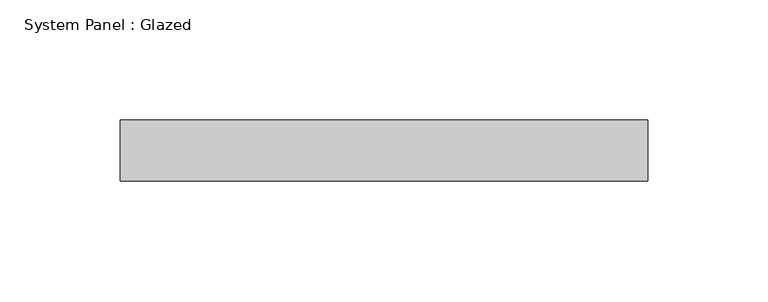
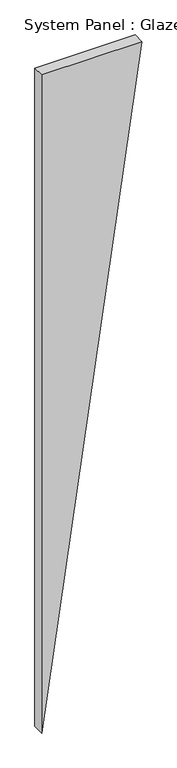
"""IFC4 building model written with IfcOpenShell, lengths in millimetres: plate geometry, System Panel : Glazed."""

from ifc_helpers import new_model, si_unit, frame, origin, place, context, project, spatial, polyline, outline, extrude, source, transform, mapped, element, save


def system_panel_glazed_ff972d7f(model_context):
    return source(origin(), model_context, "Body", "SweptSolid", [
        extrude(outline(polyline([(1524.0, -109.6402878), (0.0, -109.6402878), (1524.0, 109.6402878), (1524.0, -109.6402878)])), frame((0.0, 19.05, 0.0), z_axis=(0.0, 1.0, 0.0), x_axis=(0.0, 0.0, 1.0)), (0.0, 0.0, 1.0), 25.4),
    ])


if __name__ == "__main__":
    model = new_model("IFC4")
    model_context = context("Model", 3, world=origin())
    ifc_project = project(units=[si_unit("LENGTHUNIT", "METRE", prefix="MILLI")], contexts=[model_context])
    site = spatial("IfcSite", under=ifc_project)
    building = spatial("IfcBuilding", under=site)
    placement = place(None, origin())
    system_panel_glazed_shape = system_panel_glazed_ff972d7f(model_context)
    element("IfcPlate", 1, ObjectType="System Panel : Glazed", at=placement, inside=building, context=model_context, shape_type="MappedRepresentation", body=[
        mapped(system_panel_glazed_shape, transform((0.0, 0.0, 0.0), x_axis=(1.0, 0.0, 0.0), y_axis=(0.0, 1.0, 0.0), z_axis=(0.0, 0.0, 1.0))),
    ])
    save(model, "model.ifc")
